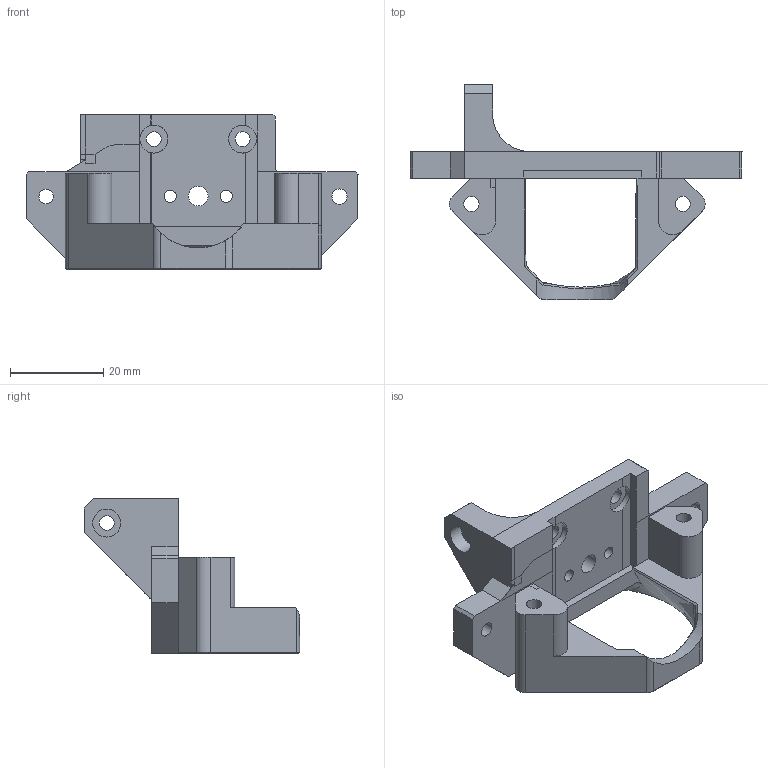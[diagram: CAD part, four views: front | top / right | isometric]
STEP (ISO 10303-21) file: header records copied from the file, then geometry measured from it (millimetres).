
FILE_DESCRIPTION(/* description */ (''),/* implementation_level */ '2;1');
FILE_NAME(/* name */ 'mount-lgx-lite-mosquito-2.1.step',/* time_stamp */ '2023-01-19T19:12:41+01:00',/* author */ (''),/* organization */ (''),/* preprocessor_version */ 'ST-DEVELOPER v19.2',/* originating_system */ 'Autodesk Translation Framework v11.17.0.187',/* authorisation */ '');
FILE_SCHEMA (('AUTOMOTIVE_DESIGN { 1 0 10303 214 3 1 1 }'));
Length unit declared in the file: millimetre
Products named in the file (1): mount-lgx-lite-mosquito-2.1
Bounding box: 71.07 x 46.08 x 33.12 mm (x, y, z)
Volume: 15483.6 mm3; surface area: 8625.5 mm2
Topology: 1 solids, 1 shells, 128 faces, 360 edges, 235 vertices
Faces by surface type: plane 69, cylinder 29, bspline 22, cone 8
Full cylindrical faces by diameter (mm): 2.6 x2, 3.1 x1, 3.15 x1, 3.2 x2, 3.25 x4, 4.2 x1, 4.6 x2, 6 x3
Entity records: 5678 total; most frequent: CARTESIAN_POINT 2424, ORIENTED_EDGE 720, DIRECTION 579, EDGE_CURVE 360, VERTEX_POINT 235, LINE 213, VECTOR 213, AXIS2_PLACEMENT_3D 183
